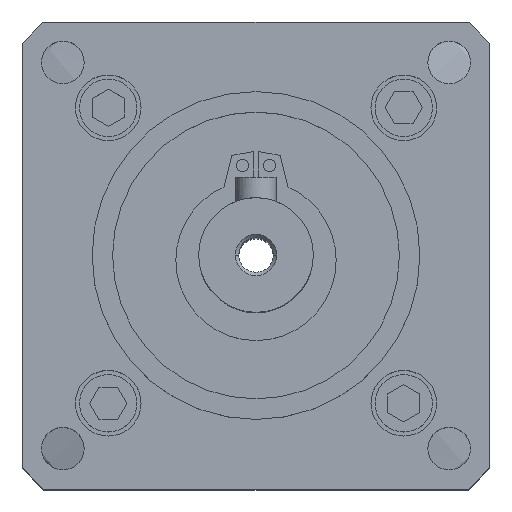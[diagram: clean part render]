
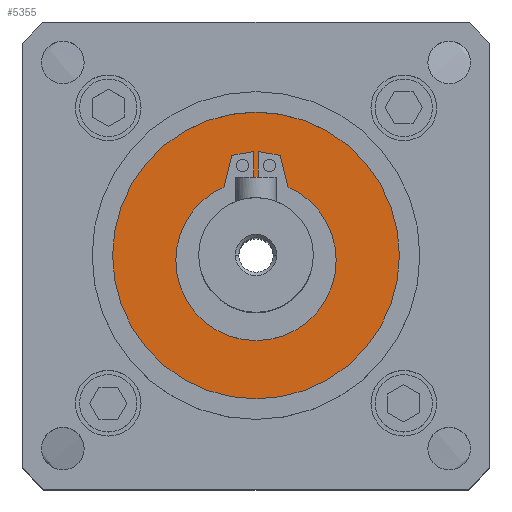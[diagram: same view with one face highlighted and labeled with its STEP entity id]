
A CAD part, top view. The second image highlights one B-rep face of the part: STEP entity #5355.
In plain terms, the highlighted planar face has unit normal (0, 0, 1).
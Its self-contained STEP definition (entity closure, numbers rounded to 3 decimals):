
#47 = CARTESIAN_POINT ( 'NONE',  ( 2.959, 12.216, 66. ) ) ;
#91 = ORIENTED_EDGE ( 'NONE', *, *, #7759, .F. ) ;
#164 = ORIENTED_EDGE ( 'NONE', *, *, #8233, .F. ) ;
#192 = VERTEX_POINT ( 'NONE', #4030 ) ;
#337 = VERTEX_POINT ( 'NONE', #1728 ) ;
#456 = CARTESIAN_POINT ( 'NONE',  ( -2.959, 12.216, 66. ) ) ;
#489 = EDGE_CURVE ( 'NONE', #2352, #7867, #2491, .T. ) ;
#515 = CARTESIAN_POINT ( 'NONE',  ( 0., -0.6, 66. ) ) ;
#646 = ORIENTED_EDGE ( 'NONE', *, *, #1691, .F. ) ;
#684 = VERTEX_POINT ( 'NONE', #1595 ) ;
#764 = ORIENTED_EDGE ( 'NONE', *, *, #4093, .F. ) ;
#792 = DIRECTION ( 'NONE',  ( 0., 0., 1. ) ) ;
#938 = VECTOR ( 'NONE', #8189, 1000. ) ;
#984 = VERTEX_POINT ( 'NONE', #3830 ) ;
#991 = ORIENTED_EDGE ( 'NONE', *, *, #3024, .T. ) ;
#1069 = LINE ( 'NONE', #4930, #6458 ) ;
#1154 = VECTOR ( 'NONE', #5049, 1000. ) ;
#1246 = VECTOR ( 'NONE', #3173, 1000. ) ;
#1595 = CARTESIAN_POINT ( 'NONE',  ( 17.5, 0., 66. ) ) ;
#1658 = CARTESIAN_POINT ( 'NONE',  ( 0., 0., 66. ) ) ;
#1691 = EDGE_CURVE ( 'NONE', #5015, #192, #7985, .T. ) ;
#1728 = CARTESIAN_POINT ( 'NONE',  ( 2.959, 12.216, 66. ) ) ;
#2006 = ORIENTED_EDGE ( 'NONE', *, *, #5487, .F. ) ;
#2045 = CARTESIAN_POINT ( 'NONE',  ( 0., -0.6, 66. ) ) ;
#2149 = LINE ( 'NONE', #3841, #6485 ) ;
#2300 = DIRECTION ( 'NONE',  ( -0.985, 0.174, 0. ) ) ;
#2352 = VERTEX_POINT ( 'NONE', #456 ) ;
#2395 = DIRECTION ( 'NONE',  ( 0., 0., -1. ) ) ;
#2443 = LINE ( 'NONE', #4231, #1154 ) ;
#2450 = CARTESIAN_POINT ( 'NONE',  ( -2.959, 12.216, 66. ) ) ;
#2491 = LINE ( 'NONE', #2450, #938 ) ;
#2500 = VERTEX_POINT ( 'NONE', #5768 ) ;
#2552 = CARTESIAN_POINT ( 'NONE',  ( 0.3, 9.185, 66. ) ) ;
#2557 = AXIS2_PLACEMENT_3D ( 'NONE', #1658, #2901, #2860 ) ;
#2666 = EDGE_CURVE ( 'NONE', #7835, #684, #5239, .T. ) ;
#2735 = VECTOR ( 'NONE', #2300, 1000. ) ;
#2860 = DIRECTION ( 'NONE',  ( 1., 0., 0. ) ) ;
#2901 = DIRECTION ( 'NONE',  ( 0., 0., 1. ) ) ;
#2930 = VERTEX_POINT ( 'NONE', #5452 ) ;
#3024 = EDGE_CURVE ( 'NONE', #684, #7835, #3089, .T. ) ;
#3056 = DIRECTION ( 'NONE',  ( 1., 0., 0. ) ) ;
#3089 = CIRCLE ( 'NONE', #6303, 17.5 ) ;
#3129 = ORIENTED_EDGE ( 'NONE', *, *, #3177, .F. ) ;
#3161 = DIRECTION ( 'NONE',  ( 1., 0., 0. ) ) ;
#3173 = DIRECTION ( 'NONE',  ( -0.236, 0.972, 0. ) ) ;
#3177 = EDGE_CURVE ( 'NONE', #2930, #8158, #5042, .T. ) ;
#3181 = DIRECTION ( 'NONE',  ( 0., 0., 1. ) ) ;
#3236 = CIRCLE ( 'NONE', #4177, 9.785 ) ;
#3467 = ORIENTED_EDGE ( 'NONE', *, *, #5091, .F. ) ;
#3509 = CARTESIAN_POINT ( 'NONE',  ( 0., 0., 66. ) ) ;
#3550 = PLANE ( 'NONE',  #4710 ) ;
#3616 = VECTOR ( 'NONE', #5164, 1000. ) ;
#3659 = DIRECTION ( 'NONE',  ( -1., 0., 0. ) ) ;
#3830 = CARTESIAN_POINT ( 'NONE',  ( 3.89, 8.378, 66. ) ) ;
#3841 = CARTESIAN_POINT ( 'NONE',  ( -0.3, 9.185, 66. ) ) ;
#4030 = CARTESIAN_POINT ( 'NONE',  ( 9.785, -0.6, 66. ) ) ;
#4093 = EDGE_CURVE ( 'NONE', #192, #984, #3236, .T. ) ;
#4177 = AXIS2_PLACEMENT_3D ( 'NONE', #515, #3181, #3056 ) ;
#4181 = FACE_BOUND ( 'NONE', #5658, .T. ) ;
#4231 = CARTESIAN_POINT ( 'NONE',  ( -0.3, 12.685, 66. ) ) ;
#4459 = DIRECTION ( 'NONE',  ( 0., 0., 1. ) ) ;
#4532 = AXIS2_PLACEMENT_3D ( 'NONE', #2045, #5325, #7914 ) ;
#4644 = DIRECTION ( 'NONE',  ( 1., 0., 0. ) ) ;
#4700 = ORIENTED_EDGE ( 'NONE', *, *, #2666, .T. ) ;
#4710 = AXIS2_PLACEMENT_3D ( 'NONE', #3509, #2395, #7306 ) ;
#4761 = VERTEX_POINT ( 'NONE', #5994 ) ;
#4802 = CARTESIAN_POINT ( 'NONE',  ( -9.785, -0.6, 66. ) ) ;
#4895 = LINE ( 'NONE', #7948, #2735 ) ;
#4930 = CARTESIAN_POINT ( 'NONE',  ( -0.3, 9.185, 66. ) ) ;
#4994 = DIRECTION ( 'NONE',  ( 0., 1., 0. ) ) ;
#5015 = VERTEX_POINT ( 'NONE', #4802 ) ;
#5037 = CIRCLE ( 'NONE', #8198, 9.785 ) ;
#5042 = LINE ( 'NONE', #2552, #3616 ) ;
#5049 = DIRECTION ( 'NONE',  ( -0.985, -0.174, 0. ) ) ;
#5084 = CARTESIAN_POINT ( 'NONE',  ( -3.89, 8.378, 66. ) ) ;
#5091 = EDGE_CURVE ( 'NONE', #8158, #4761, #1069, .T. ) ;
#5164 = DIRECTION ( 'NONE',  ( 0., -1., 0. ) ) ;
#5239 = CIRCLE ( 'NONE', #2557, 17.5 ) ;
#5325 = DIRECTION ( 'NONE',  ( 0., 0., 1. ) ) ;
#5355 = ADVANCED_FACE ( 'NONE', ( #4181, #7388 ), #3550, .F. ) ;
#5452 = CARTESIAN_POINT ( 'NONE',  ( 0.3, 12.685, 66. ) ) ;
#5487 = EDGE_CURVE ( 'NONE', #984, #337, #7595, .T. ) ;
#5658 = EDGE_LOOP ( 'NONE', ( #6338, #7171, #91, #164, #3467, #3129, #6409, #2006, #764, #646 ) ) ;
#5768 = CARTESIAN_POINT ( 'NONE',  ( -0.3, 12.685, 66. ) ) ;
#5962 = CARTESIAN_POINT ( 'NONE',  ( 0.3, 9.185, 66. ) ) ;
#5994 = CARTESIAN_POINT ( 'NONE',  ( -0.3, 9.185, 66. ) ) ;
#6071 = CARTESIAN_POINT ( 'NONE',  ( 0., 0., 66. ) ) ;
#6269 = EDGE_LOOP ( 'NONE', ( #4700, #991 ) ) ;
#6303 = AXIS2_PLACEMENT_3D ( 'NONE', #6071, #792, #4644 ) ;
#6338 = ORIENTED_EDGE ( 'NONE', *, *, #7210, .F. ) ;
#6409 = ORIENTED_EDGE ( 'NONE', *, *, #7087, .F. ) ;
#6441 = CARTESIAN_POINT ( 'NONE',  ( -17.5, 0., 66. ) ) ;
#6458 = VECTOR ( 'NONE', #3659, 1000. ) ;
#6485 = VECTOR ( 'NONE', #4994, 1000. ) ;
#6837 = CARTESIAN_POINT ( 'NONE',  ( 0., -0.6, 66. ) ) ;
#7087 = EDGE_CURVE ( 'NONE', #337, #2930, #4895, .T. ) ;
#7171 = ORIENTED_EDGE ( 'NONE', *, *, #489, .F. ) ;
#7210 = EDGE_CURVE ( 'NONE', #7867, #5015, #5037, .T. ) ;
#7306 = DIRECTION ( 'NONE',  ( -1., 0., 0. ) ) ;
#7388 = FACE_OUTER_BOUND ( 'NONE', #6269, .T. ) ;
#7595 = LINE ( 'NONE', #47, #1246 ) ;
#7759 = EDGE_CURVE ( 'NONE', #2500, #2352, #2443, .T. ) ;
#7835 = VERTEX_POINT ( 'NONE', #6441 ) ;
#7867 = VERTEX_POINT ( 'NONE', #5084 ) ;
#7914 = DIRECTION ( 'NONE',  ( 1., 0., 0. ) ) ;
#7948 = CARTESIAN_POINT ( 'NONE',  ( 0.3, 12.685, 66. ) ) ;
#7985 = CIRCLE ( 'NONE', #4532, 9.785 ) ;
#8158 = VERTEX_POINT ( 'NONE', #5962 ) ;
#8189 = DIRECTION ( 'NONE',  ( -0.236, -0.972, 0. ) ) ;
#8198 = AXIS2_PLACEMENT_3D ( 'NONE', #6837, #4459, #3161 ) ;
#8233 = EDGE_CURVE ( 'NONE', #4761, #2500, #2149, .T. ) ;
